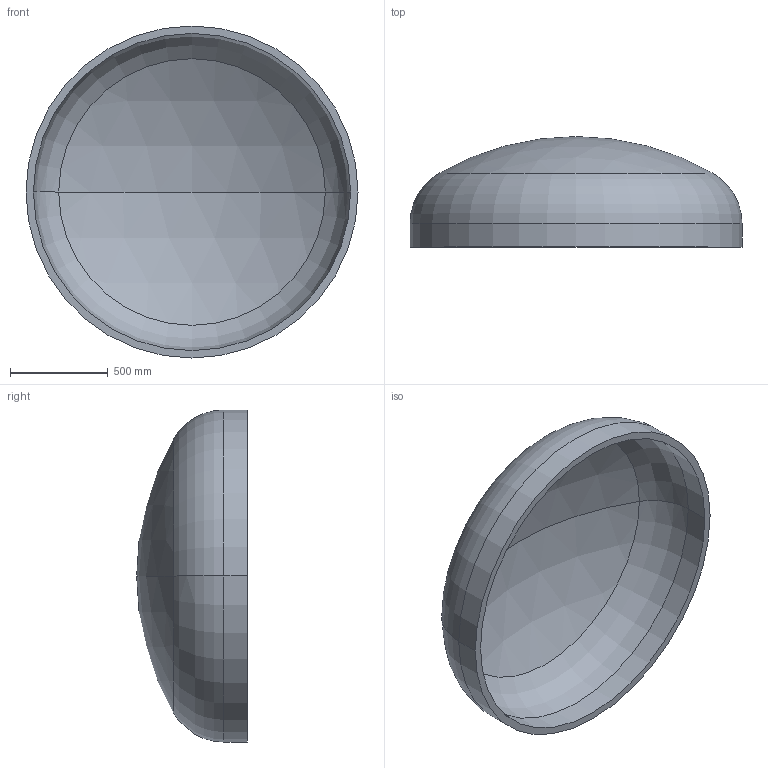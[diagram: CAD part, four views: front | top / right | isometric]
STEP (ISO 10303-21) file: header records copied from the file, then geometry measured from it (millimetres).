
FILE_DESCRIPTION (( 'STEP AP203' ), '1' );
FILE_NAME ('DIN 28013 Korbbogenform_-_Boden DIN 28013 - 1700 x 120 - I - s=38.step', '2016-07-01T11:48:24', ( '' ), ( '' ), 'SwSTEP 2.0', 'SolidWorks 2013', '' );
FILE_SCHEMA (( 'CONFIG_CONTROL_DESIGN' ));
Length unit declared in the file: millimetre
Products named in the file (1): DIN 28013 Korbbogenform_-_Boden DIN 28013 - 1700 x 120 - I - s=38
Bounding box: 1700 x 566.53 x 1700 mm (x, y, z)
Volume: 139650468.9 mm3; surface area: 7551457.1 mm2
Topology: 1 solids, 1 shells, 13 faces, 24 edges, 14 vertices
Faces by surface type: torus 4, cylinder 4, sphere 4, plane 1
Entity records: 407 total; most frequent: DIRECTION 72, CARTESIAN_POINT 52, ORIENTED_EDGE 48, AXIS2_PLACEMENT_3D 34, EDGE_CURVE 24, CIRCLE 20, EDGE_LOOP 14, VERTEX_POINT 14
